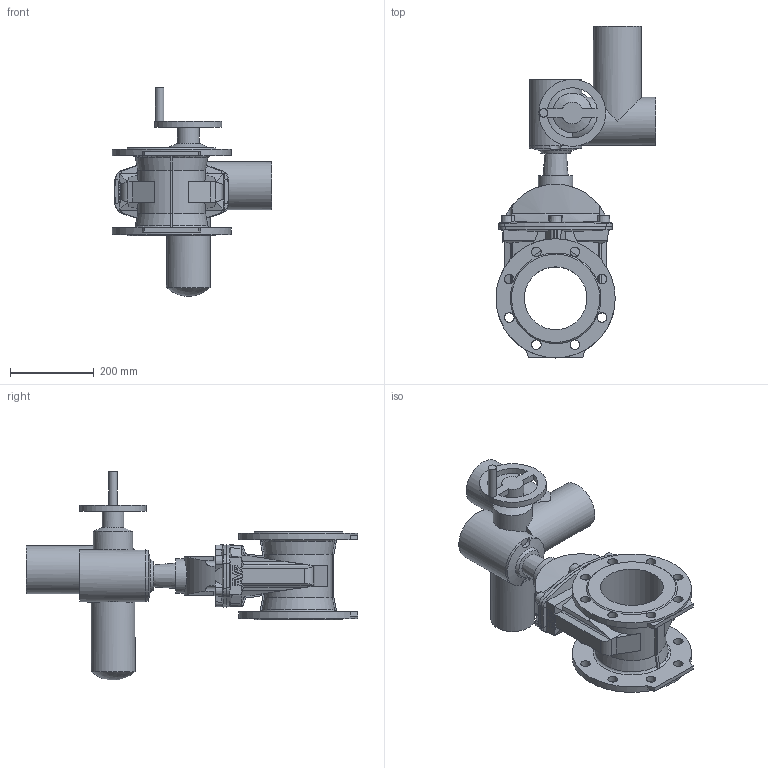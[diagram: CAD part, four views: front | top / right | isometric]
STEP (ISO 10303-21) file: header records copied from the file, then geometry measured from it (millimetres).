
FILE_DESCRIPTION (( 'STEP AP203' ), '1' );
FILE_NAME ('O_15_42_DN150_X1XXX099_SA07.6_AA0.step', '2017-03-20T12:37:38', ( 'Windows User' ), ( 'AVK' ), 'SwSTEP 2.0', 'SolidWorks 2012', '' );
FILE_SCHEMA (( 'CONFIG_CONTROL_DESIGN' ));
Length unit declared in the file: inch
Products named in the file (1): O_15_42_DN150_X1XXX099_SA07.6_AA0
Bounding box: 382.5 x 793.5 x 498.55 mm (x, y, z)
Volume: 15231382.3 mm3; surface area: 932243.7 mm2
Topology: 1 solids, 1 shells, 341 faces, 1008 edges, 651 vertices
Faces by surface type: plane 166, cylinder 98, cone 60, bspline 12, sphere 3, torus 2
Full cylindrical faces by diameter (mm): 20 x1, 23 x16, 52.112 x1, 82.4 x1, 93.905 x1, 105 x1, 115 x2, 125 x1, 150 x1, 160 x1, 285 x2
Entity records: 12717 total; most frequent: CARTESIAN_POINT 4159, ORIENTED_EDGE 1860, DIRECTION 1642, EDGE_CURVE 930, VERTEX_POINT 616, AXIS2_PLACEMENT_3D 591, LINE 460, VECTOR 460
